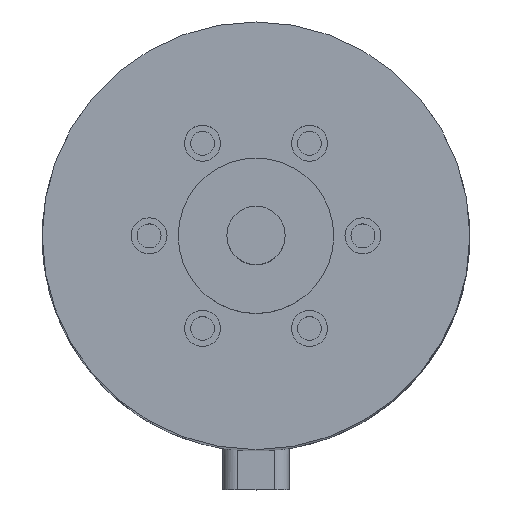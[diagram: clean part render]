
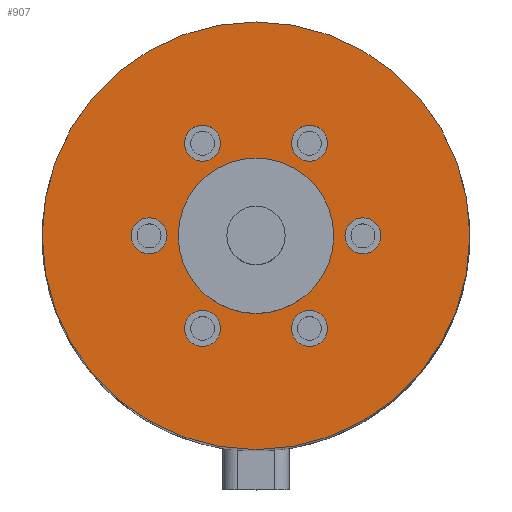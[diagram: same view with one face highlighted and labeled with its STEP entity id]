
A CAD part, top view. The second image highlights one B-rep face of the part: STEP entity #907.
In plain terms, the highlighted planar face has unit normal (0, 0, 1).
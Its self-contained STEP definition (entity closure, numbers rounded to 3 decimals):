
#204=CARTESIAN_POINT('',(-3.65,-9.526,0.));
#205=VERTEX_POINT('',#204);
#206=CARTESIAN_POINT('',(-5.5,-9.526,0.));
#207=DIRECTION('',(0.0,0.0,-1.0));
#208=DIRECTION('',(1.0,0.0,0.0));
#209=AXIS2_PLACEMENT_3D('',#206,#207,#208);
#210=CIRCLE('',#209,1.85);
#211=EDGE_CURVE('',#205,#205,#210,.T.);
#281=CARTESIAN_POINT('',(-9.15,0.,0.));
#282=VERTEX_POINT('',#281);
#283=CARTESIAN_POINT('',(-11.,0.,0.));
#284=DIRECTION('',(0.0,0.0,-1.0));
#285=DIRECTION('',(1.0,0.0,0.0));
#286=AXIS2_PLACEMENT_3D('',#283,#284,#285);
#287=CIRCLE('',#286,1.85);
#288=EDGE_CURVE('',#282,#282,#287,.T.);
#358=CARTESIAN_POINT('',(-3.65,9.526,0.));
#359=VERTEX_POINT('',#358);
#360=CARTESIAN_POINT('',(-5.5,9.526,0.));
#361=DIRECTION('',(0.0,0.0,-1.0));
#362=DIRECTION('',(1.0,0.0,0.0));
#363=AXIS2_PLACEMENT_3D('',#360,#361,#362);
#364=CIRCLE('',#363,1.85);
#365=EDGE_CURVE('',#359,#359,#364,.T.);
#435=CARTESIAN_POINT('',(7.35,9.526,0.));
#436=VERTEX_POINT('',#435);
#437=CARTESIAN_POINT('',(5.5,9.526,0.));
#438=DIRECTION('',(0.0,0.0,-1.0));
#439=DIRECTION('',(1.0,0.0,0.0));
#440=AXIS2_PLACEMENT_3D('',#437,#438,#439);
#441=CIRCLE('',#440,1.85);
#442=EDGE_CURVE('',#436,#436,#441,.T.);
#512=CARTESIAN_POINT('',(12.85,0.,0.));
#513=VERTEX_POINT('',#512);
#514=CARTESIAN_POINT('',(11.0,0.,0.));
#515=DIRECTION('',(0.0,0.0,-1.0));
#516=DIRECTION('',(1.0,0.0,0.0));
#517=AXIS2_PLACEMENT_3D('',#514,#515,#516);
#518=CIRCLE('',#517,1.85);
#519=EDGE_CURVE('',#513,#513,#518,.T.);
#589=CARTESIAN_POINT('',(7.35,-9.526,0.));
#590=VERTEX_POINT('',#589);
#591=CARTESIAN_POINT('',(5.5,-9.526,0.));
#592=DIRECTION('',(0.0,0.0,-1.0));
#593=DIRECTION('',(1.0,0.0,0.0));
#594=AXIS2_PLACEMENT_3D('',#591,#592,#593);
#595=CIRCLE('',#594,1.85);
#596=EDGE_CURVE('',#590,#590,#595,.T.);
#858=CARTESIAN_POINT('',(0.0,-22.,0.));
#859=VERTEX_POINT('',#858);
#860=CARTESIAN_POINT('',(0.0,0.0,0.));
#861=DIRECTION('',(0.0,0.0,1.0));
#862=DIRECTION('',(0.0,-1.0,0.0));
#863=AXIS2_PLACEMENT_3D('',#860,#861,#862);
#864=CIRCLE('',#863,22.);
#865=EDGE_CURVE('',#859,#859,#864,.T.);
#870=CARTESIAN_POINT('',(0.0,-15.,0.));
#871=DIRECTION('',(0.0,0.0,1.0));
#872=DIRECTION('',(1.0,0.0,0.0));
#873=AXIS2_PLACEMENT_3D('',#870,#871,#872);
#874=PLANE('',#873);
#875=ORIENTED_EDGE('',*,*,#865,.T.);
#876=EDGE_LOOP('',(#875));
#877=FACE_OUTER_BOUND('',#876,.T.);
#878=ORIENTED_EDGE('',*,*,#211,.T.);
#879=EDGE_LOOP('',(#878));
#880=FACE_BOUND('',#879,.T.);
#881=ORIENTED_EDGE('',*,*,#288,.T.);
#882=EDGE_LOOP('',(#881));
#883=FACE_BOUND('',#882,.T.);
#884=ORIENTED_EDGE('',*,*,#365,.T.);
#885=EDGE_LOOP('',(#884));
#886=FACE_BOUND('',#885,.T.);
#887=ORIENTED_EDGE('',*,*,#442,.T.);
#888=EDGE_LOOP('',(#887));
#889=FACE_BOUND('',#888,.T.);
#890=ORIENTED_EDGE('',*,*,#519,.T.);
#891=EDGE_LOOP('',(#890));
#892=FACE_BOUND('',#891,.T.);
#893=ORIENTED_EDGE('',*,*,#596,.T.);
#894=EDGE_LOOP('',(#893));
#895=FACE_BOUND('',#894,.T.);
#896=CARTESIAN_POINT('',(0.0,-8.0,0.0));
#897=VERTEX_POINT('',#896);
#898=CARTESIAN_POINT('',(0.0,0.0,0.0));
#899=DIRECTION('',(0.0,0.0,1.0));
#900=DIRECTION('',(0.0,-1.0,0.0));
#901=AXIS2_PLACEMENT_3D('',#898,#899,#900);
#902=CIRCLE('',#901,8.0);
#903=EDGE_CURVE('',#897,#897,#902,.T.);
#904=ORIENTED_EDGE('',*,*,#903,.F.);
#905=EDGE_LOOP('',(#904));
#906=FACE_BOUND('',#905,.T.);
#907=ADVANCED_FACE('',(#877,#880,#883,#886,#889,#892,#895,#906),#874,.T.);
